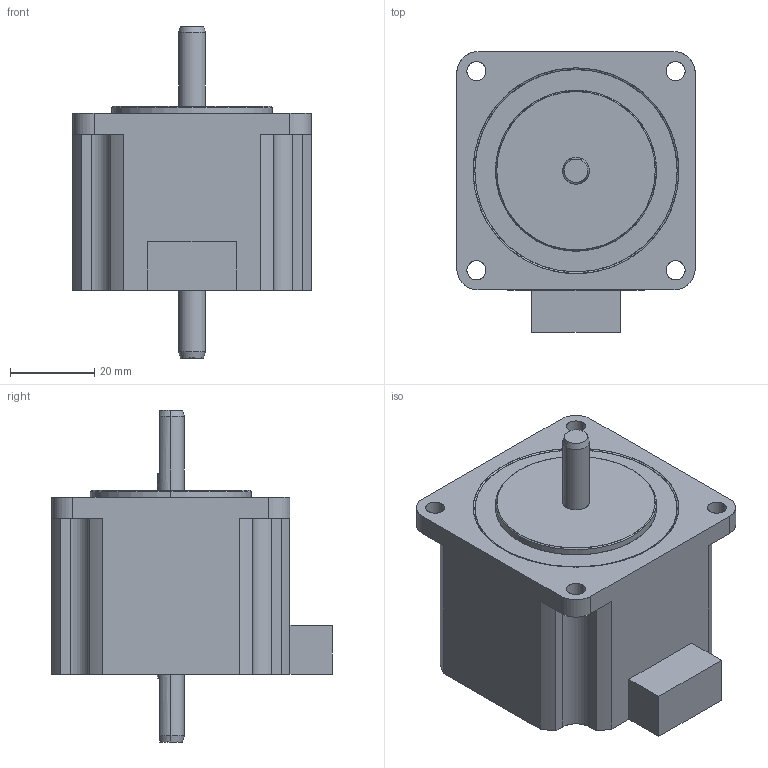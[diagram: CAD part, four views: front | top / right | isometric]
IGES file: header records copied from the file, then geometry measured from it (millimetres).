
Start section: SolidWorks IGES file using analytic representation for surfaces
Global section: file name: \\MCADserv\kari\7666\Plexmotion New 3D data\PMSA-U56D1D_3D\PMSA-U56D1D_3D.IGS; native system: SolidWorks 2014; preprocessor: SolidWorks 2014; author: user0016; date: 161115.134736; units: millimetre
Bounding box: 56.4 x 66.4 x 78.6 mm (x, y, z)
Surface area: 16718.1 mm2 (no closed solid volume)
Topology: 0 solids, 0 shells, 70 faces, 1108 edges, 1108 vertices
Faces by surface type: revolution 40, bspline 30
